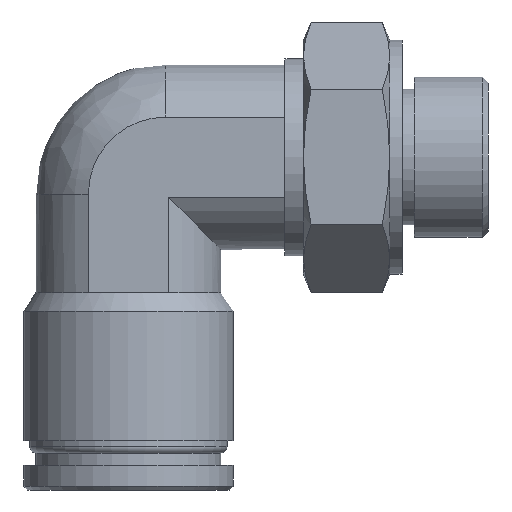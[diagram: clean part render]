
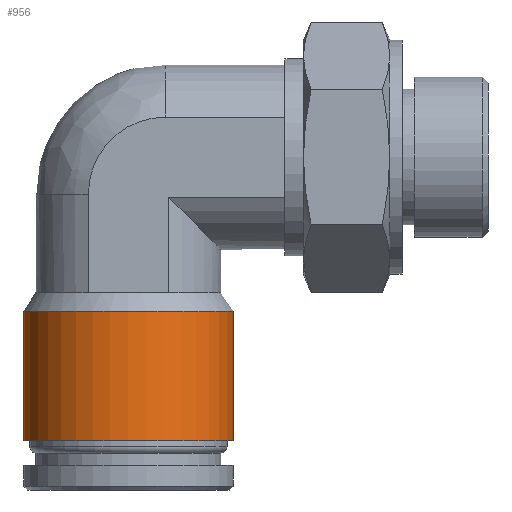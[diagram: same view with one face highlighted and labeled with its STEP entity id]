
A CAD part, left-side view. The second image highlights one B-rep face of the part: STEP entity #956.
In plain terms, the highlighted cylindrical face has radius 8.5 mm (diameter 17 mm), a full revolution.
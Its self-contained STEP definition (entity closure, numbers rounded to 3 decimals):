
#166=FACE_OUTER_BOUND('',#241,.T.);
#241=EDGE_LOOP('',(#823,#824,#825,#826));
#281=LINE('',#1791,#315);
#315=VECTOR('',#1436,8.5);
#383=CIRCLE('',#1146,8.5);
#386=CIRCLE('',#1152,8.5);
#468=VERTEX_POINT('',#1778);
#470=VERTEX_POINT('',#1788);
#588=EDGE_CURVE('',#468,#468,#383,.T.);
#592=EDGE_CURVE('',#470,#470,#386,.T.);
#593=EDGE_CURVE('',#468,#470,#281,.T.);
#823=ORIENTED_EDGE('',*,*,#588,.F.);
#824=ORIENTED_EDGE('',*,*,#593,.T.);
#825=ORIENTED_EDGE('',*,*,#592,.T.);
#826=ORIENTED_EDGE('',*,*,#593,.F.);
#900=CYLINDRICAL_SURFACE('',#1153,8.5);
#956=ADVANCED_FACE('',(#166),#900,.T.);
#1146=AXIS2_PLACEMENT_3D('',#1780,#1419,#1420);
#1152=AXIS2_PLACEMENT_3D('',#1789,#1432,#1433);
#1153=AXIS2_PLACEMENT_3D('',#1790,#1434,#1435);
#1419=DIRECTION('center_axis',(0.,0.,1.));
#1420=DIRECTION('ref_axis',(1.,0.,0.));
#1432=DIRECTION('center_axis',(0.,0.,1.));
#1433=DIRECTION('ref_axis',(1.,0.,0.));
#1434=DIRECTION('center_axis',(0.,0.,1.));
#1435=DIRECTION('ref_axis',(0.,-1.,0.));
#1436=DIRECTION('',(0.,0.,-1.));
#1778=CARTESIAN_POINT('',(0.,21.2,-12.5));
#1780=CARTESIAN_POINT('Origin',(0.,12.7,-12.5));
#1788=CARTESIAN_POINT('',(0.,21.2,-23.));
#1789=CARTESIAN_POINT('Origin',(0.,12.7,-23.));
#1790=CARTESIAN_POINT('Origin',(0.,12.7,-17.75));
#1791=CARTESIAN_POINT('',(0.,21.2,-17.75));
